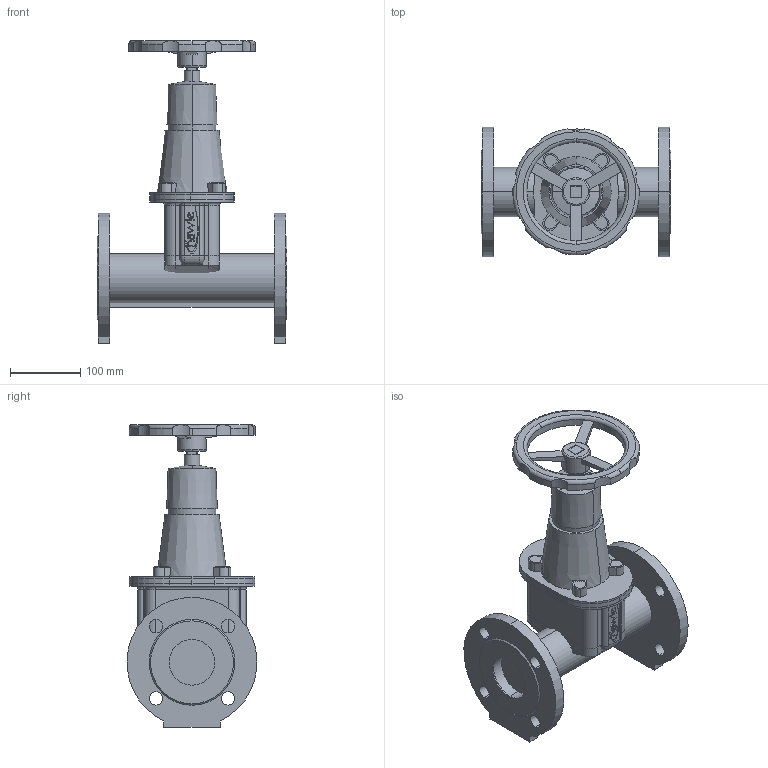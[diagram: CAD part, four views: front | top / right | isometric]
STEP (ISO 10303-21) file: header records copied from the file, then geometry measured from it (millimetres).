
FILE_DESCRIPTION(('STEP AP214'),'1');
FILE_NAME('S:/EK/USER/CAT6/3DHomepage/4700E2/4700E2-PN16-DN65-HANDRAD.STP','2012-04-23T12:19:06',(' '),(' '),'Spatial InterOp 3D',' ',' ');
FILE_SCHEMA(('automotive_design'));
Length unit declared in the file: millimetre
Products named in the file (62): 3D-Objekt; 1; 2
Bounding box: 270 x 184.72 x 430.5 mm (x, y, z)
Volume: 3874195.7 mm3; surface area: 597429.9 mm2
Topology: 62 solids, 62 shells, 569 faces, 1321 edges, 882 vertices
Faces by surface type: plane 317, cylinder 218, torus 20, cone 10, bspline 4
Entity records: 22704 total; most frequent: CARTESIAN_POINT 3196, DIRECTION 3087, ORIENTED_EDGE 2642, EDGE_CURVE 1321, AXIS2_PLACEMENT_3D 1157, VERTEX_POINT 882, LINE 773, VECTOR 773
